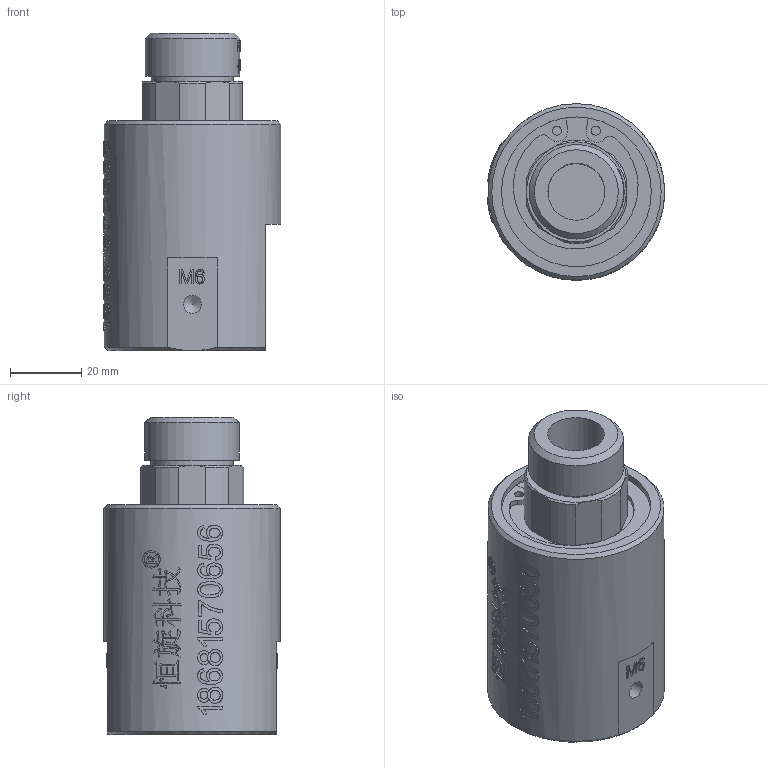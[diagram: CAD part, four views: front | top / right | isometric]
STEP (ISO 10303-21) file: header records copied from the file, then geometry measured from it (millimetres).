
FILE_DESCRIPTION(/* description */ (''),/* implementation_level */ '2;1');
FILE_NAME(/* name */ 'HC0106(RH)-3D模型.stp',/* time_stamp */ '2025-07-07T10:32:15+08:00',/* author */ (''),/* organization */ (''),/* preprocessor_version */ 'ST-DEVELOPER v16.7',/* originating_system */ 'SIEMENS PLM Software NX 12.0',/* authorisation */ '');
FILE_SCHEMA (('AUTOMOTIVE_DESIGN { 1 0 10303 214 3 1 1 1 }'));
Length unit declared in the file: millimetre
Products named in the file (1): Admi1AA49A9B0ac7
Bounding box: 49.75 x 49.5 x 89 mm (x, y, z)
Volume: 110012.1 mm3; surface area: 22487 mm2
Topology: 1 solids, 1 shells, 995 faces, 2758 edges, 1838 vertices
Faces by surface type: extrusion 532, plane 359, bspline 48, cylinder 43, cone 13
Full cylindrical faces by diameter (mm): 2.5 x2, 5 x2, 16 x2, 23 x1, 24 x1, 26.5 x1, 42 x1, 44.5 x1, 49.5 x1
Entity records: 39751 total; most frequent: CARTESIAN_POINT 18595, ORIENTED_EDGE 5434, EDGE_CURVE 2717, B_SPLINE_CURVE_WITH_KNOTS 2661, DIRECTION 2202, VERTEX_POINT 1820, EDGE_LOOP 1087, ADVANCED_FACE 993
